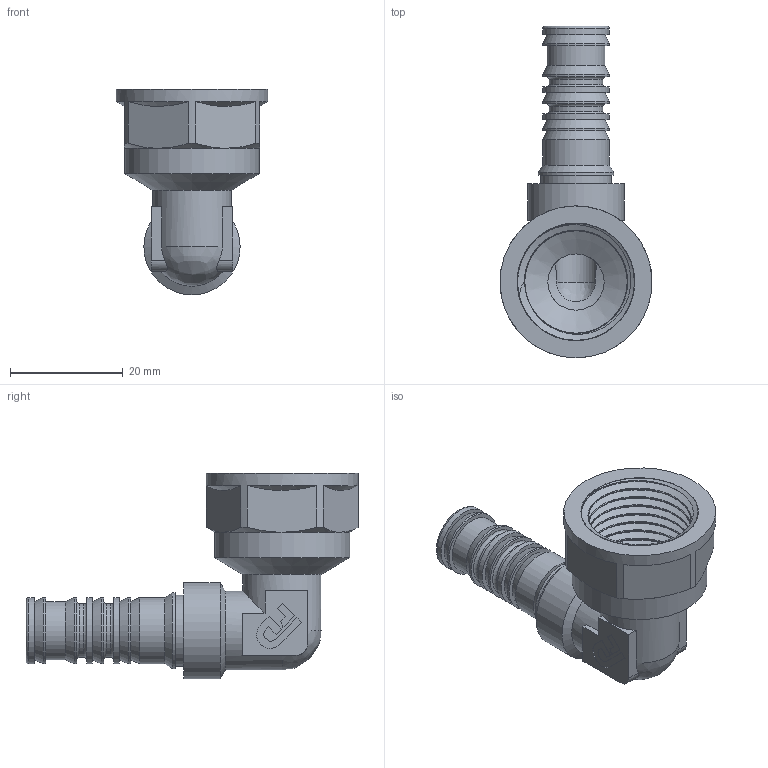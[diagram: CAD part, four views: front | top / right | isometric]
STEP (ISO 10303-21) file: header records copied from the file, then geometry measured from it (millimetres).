
FILE_DESCRIPTION(/* description */ (''),/* implementation_level */ '2;1');
FILE_NAME(/* name */ 'C:\Users\Doom\Desktop\Фадотех\Пресс\HDU11-1 15.01.2020\HDU11-1 15.01.2020.stp',/* time_stamp */ '2022-08-13T11:03:40+03:00',/* author */ ('Doom'),/* organization */ (''),/* preprocessor_version */ 'ST-DEVELOPER v18',/* originating_system */ 'Autodesk Inventor 2020',/* authorisation */ '');
FILE_SCHEMA (('AUTOMOTIVE_DESIGN { 1 0 10303 214 3 1 1 }'));
Length unit declared in the file: millimetre
Products named in the file (1): HDU01-1 15.01.2020
Bounding box: 27 x 59 x 36.55 mm (x, y, z)
Volume: 8227.4 mm3; surface area: 9894 mm2
Topology: 2 solids, 2 shells, 144 faces, 411 edges, 284 vertices
Faces by surface type: plane 66, cylinder 32, cone 25, bspline 16, torus 5
Full cylindrical faces by diameter (mm): 7.5 x1, 9.5 x2, 10 x1, 10.3 x1, 11.8 x8, 12.596 x1, 13.5 x1, 14 x2, 17.1 x1, 18.21 x6, 20.9 x2, 24 x1, 27 x1
Entity records: 9227 total; most frequent: CARTESIAN_POINT 5517, ORIENTED_EDGE 818, DIRECTION 712, EDGE_CURVE 409, VERTEX_POINT 283, AXIS2_PLACEMENT_3D 267, LINE 178, VECTOR 178
